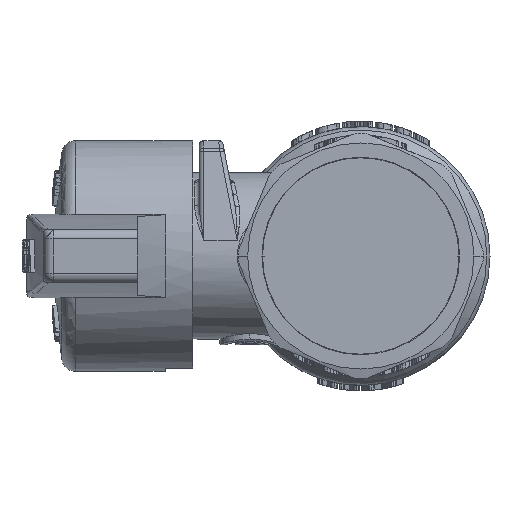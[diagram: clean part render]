
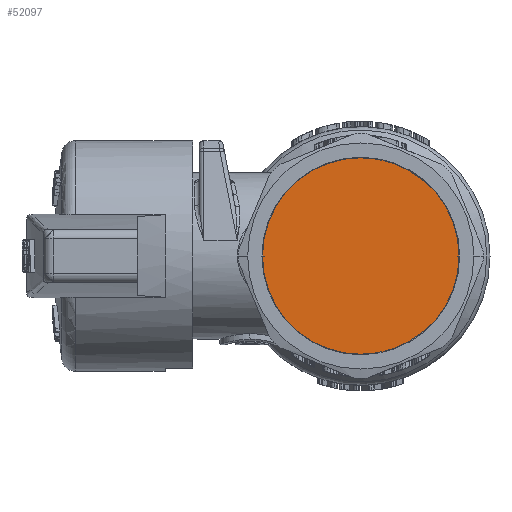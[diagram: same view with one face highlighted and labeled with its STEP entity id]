
A CAD part, left-side view. The second image highlights one B-rep face of the part: STEP entity #52097.
In plain terms, the highlighted planar face has unit normal (-1, 0, 0).
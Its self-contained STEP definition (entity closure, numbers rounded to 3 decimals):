
#52040=CARTESIAN_POINT('',(-28.445,0.,0.));
#52041=DIRECTION('',(-1.,0.,0.));
#52042=DIRECTION('',(0.,-1.,0.));
#52043=AXIS2_PLACEMENT_3D('',#52040,#52041,#52042);
#52049=CARTESIAN_POINT('',(-28.445,0.,0.));
#52050=DIRECTION('',(1.,0.,0.));
#52051=DIRECTION('',(0.,-1.,0.));
#52052=AXIS2_PLACEMENT_3D('',#52049,#52050,#52051);
#52074=CARTESIAN_POINT('',(-28.445,-10.645,0.));
#52076=VERTEX_POINT('',#52074);
#52078=CARTESIAN_POINT('',(-28.445,10.645,0.));
#52080=VERTEX_POINT('',#52078);
#52086=CARTESIAN_POINT('',(-28.445,0.,0.));
#52087=DIRECTION('',(1.,0.,0.));
#52088=DIRECTION('',(0.,-1.,0.));
#52089=AXIS2_PLACEMENT_3D('',#52086,#52087,#52088);
#52090=PLANE('',#52089);
#52092=ORIENTED_EDGE('',*,*,#52091,.F.);
#52094=ORIENTED_EDGE('',*,*,#52093,.T.);
#52095=EDGE_LOOP('',(#52092,#52094));
#52096=FACE_OUTER_BOUND('',#52095,.F.);
#52097=ADVANCED_FACE('',(#52096),#52090,.F.);
#52044=CIRCLE('',#52043,10.645);
#52053=CIRCLE('',#52052,10.645);
#52091=EDGE_CURVE('',#52076,#52080,#52044,.T.);
#52093=EDGE_CURVE('',#52076,#52080,#52053,.T.);
